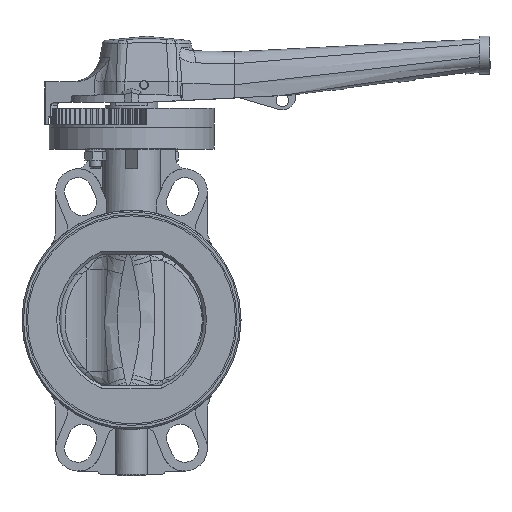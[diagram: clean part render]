
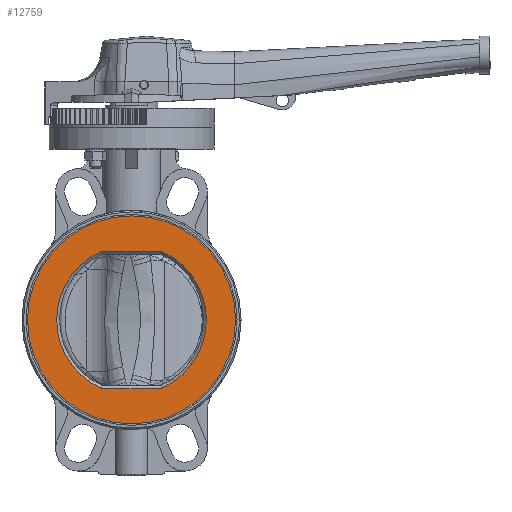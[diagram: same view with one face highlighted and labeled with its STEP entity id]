
A CAD part, top view. The second image highlights one B-rep face of the part: STEP entity #12759.
In plain terms, the highlighted planar face has unit normal (0, 0, 1).
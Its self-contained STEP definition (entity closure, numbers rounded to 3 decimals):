
#905=FACE_BOUND('',#2285,.T.);
#1068=PLANE('',#13700);
#1458=FACE_OUTER_BOUND('',#2284,.T.);
#2284=EDGE_LOOP('',(#9240));
#2285=EDGE_LOOP('',(#9241,#9242,#9243,#9244));
#3202=LINE('',#19068,#4066);
#3204=LINE('',#19084,#4068);
#4066=VECTOR('',#15464,40.869);
#4068=VECTOR('',#15474,40.869);
#4873=CIRCLE('',#13689,51.25);
#4876=CIRCLE('',#13694,51.25);
#4879=CIRCLE('',#13701,71.25);
#5565=VERTEX_POINT('',#19050);
#5566=VERTEX_POINT('',#19051);
#5570=VERTEX_POINT('',#19067);
#5572=VERTEX_POINT('',#19076);
#5577=VERTEX_POINT('',#19098);
#6934=EDGE_CURVE('',#5565,#5566,#4873,.T.);
#6939=EDGE_CURVE('',#5566,#5570,#3202,.T.);
#6942=EDGE_CURVE('',#5570,#5572,#4876,.T.);
#6945=EDGE_CURVE('',#5572,#5565,#3204,.T.);
#6952=EDGE_CURVE('',#5577,#5577,#4879,.T.);
#9240=ORIENTED_EDGE('',*,*,#6952,.F.);
#9241=ORIENTED_EDGE('',*,*,#6934,.F.);
#9242=ORIENTED_EDGE('',*,*,#6945,.F.);
#9243=ORIENTED_EDGE('',*,*,#6942,.F.);
#9244=ORIENTED_EDGE('',*,*,#6939,.F.);
#12759=ADVANCED_FACE('',(#1458,#905),#1068,.T.);
#13689=AXIS2_PLACEMENT_3D('',#19052,#15457,#15458);
#13694=AXIS2_PLACEMENT_3D('',#19077,#15469,#15470);
#13700=AXIS2_PLACEMENT_3D('',#19097,#15487,#15488);
#13701=AXIS2_PLACEMENT_3D('',#19099,#15489,#15490);
#15457=DIRECTION('center_axis',(0.,0.,1.));
#15458=DIRECTION('ref_axis',(1.,0.,0.));
#15464=DIRECTION('',(-1.,0.,0.));
#15469=DIRECTION('center_axis',(0.,0.,1.));
#15470=DIRECTION('ref_axis',(-1.,0.,0.));
#15474=DIRECTION('',(1.,0.,0.));
#15487=DIRECTION('center_axis',(0.,0.,1.));
#15488=DIRECTION('ref_axis',(1.,0.,0.));
#15489=DIRECTION('center_axis',(0.,0.,-1.));
#15490=DIRECTION('ref_axis',(-1.,0.,0.));
#19050=CARTESIAN_POINT('',(20.434,-47.,31.));
#19051=CARTESIAN_POINT('',(20.434,47.,31.));
#19052=CARTESIAN_POINT('Origin',(0.,0.,31.));
#19067=CARTESIAN_POINT('',(-20.434,47.,31.));
#19068=CARTESIAN_POINT('',(10.007,47.,31.));
#19076=CARTESIAN_POINT('',(-20.434,-47.,31.));
#19077=CARTESIAN_POINT('Origin',(0.,0.,31.));
#19084=CARTESIAN_POINT('',(-10.007,-47.,31.));
#19097=CARTESIAN_POINT('Origin',(0.,0.,31.));
#19098=CARTESIAN_POINT('',(71.25,0.,31.));
#19099=CARTESIAN_POINT('Origin',(0.,0.,31.));
